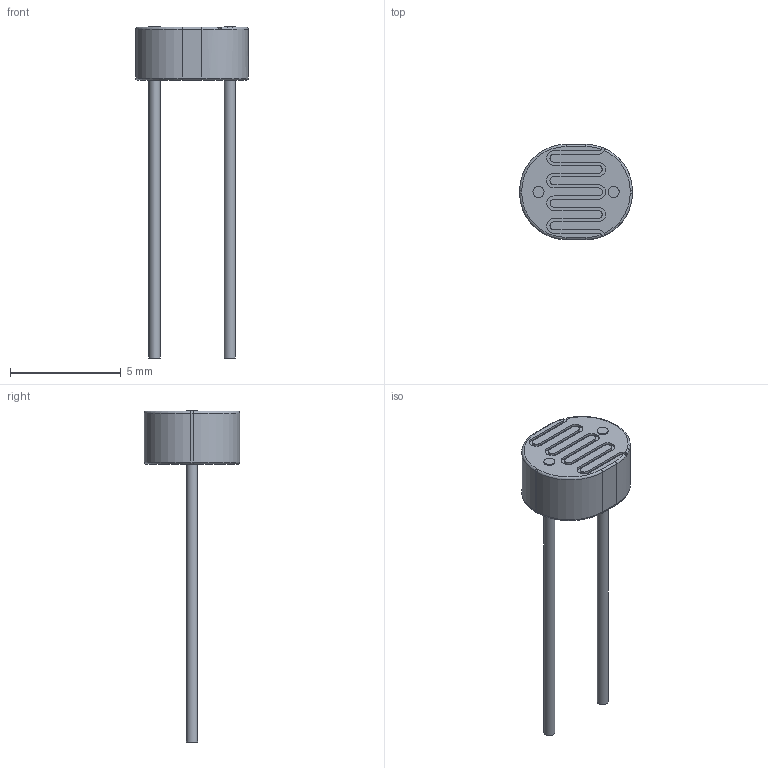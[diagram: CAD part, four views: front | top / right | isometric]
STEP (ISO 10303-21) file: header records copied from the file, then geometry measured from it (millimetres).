
FILE_DESCRIPTION(/* description */ ('STEP AP242 Edition 2','CAx-IF Rec.Pracs.---Representation and Presentation of Product Manufacturing Information (PMI)---4.0---2014-10-13','CAx-IF Rec.Pracs.---3D Tessellated Geometry---0.4---2014-09-14','2;1','CAx-IF Rec.Pracs.---User Defined Attributes---1.5---2016-08-15'),/* implementation_level */ '2;1');
FILE_NAME(/* name */ 'Assembly 1 - Part 1 (1)',/* time_stamp */ '2026-11-02T12:33:13Z',/* author */ (''),/* organization */ (''),/* preprocessor_version */ 'ST-DEVELOPER v20',/* originating_system */ 'ONSHAPE BY PTC INC, 1.223',/* authorisation */ ' ');
FILE_SCHEMA (('AP242_MANAGED_MODEL_BASED_3D_ENGINEERING_MIM_LF { 1 0 10303 442 3 1 4 }'));
Length unit declared in the file: millimetre
Products named in the file (1): Part 1
Bounding box: 5.1 x 4.3 x 15 mm (x, y, z)
Volume: 48.1 mm3; surface area: 115.5 mm2
Topology: 1 solids, 1 shells, 72 faces, 178 edges, 112 vertices
Faces by surface type: cylinder 34, plane 28, torus 10
Full cylindrical faces by diameter (mm): 0.5 x4
Entity records: 2411 total; most frequent: CARTESIAN_POINT 392, DIRECTION 384, ORIENTED_EDGE 348, EDGE_CURVE 174, AXIS2_PLACEMENT_3D 148, VERTEX_POINT 112, LINE 88, VECTOR 88
